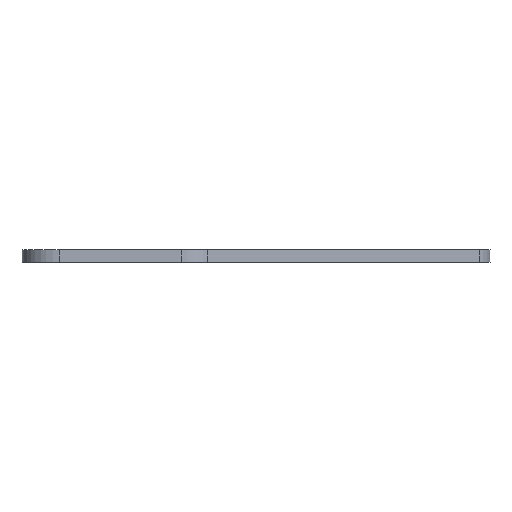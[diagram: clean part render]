
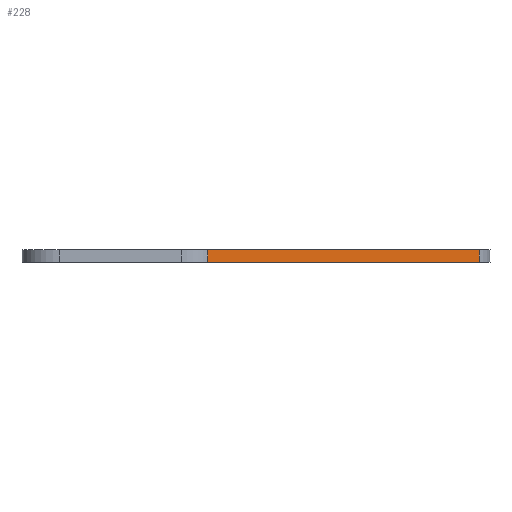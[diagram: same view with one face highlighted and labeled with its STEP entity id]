
A CAD part, front view. The second image highlights one B-rep face of the part: STEP entity #228.
In plain terms, the highlighted planar face has unit normal (0.707, -0.707, 0).
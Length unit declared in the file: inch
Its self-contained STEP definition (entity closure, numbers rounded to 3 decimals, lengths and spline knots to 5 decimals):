
#16 = LINE ( 'NONE', #638, #360 ) ;
#66 = VERTEX_POINT ( 'NONE', #811 ) ;
#137 = DIRECTION ( 'NONE',  ( -0.707, -0.707, 0. ) ) ;
#168 = ORIENTED_EDGE ( 'NONE', *, *, #813, .F. ) ;
#175 = CARTESIAN_POINT ( 'NONE',  ( 0.95083, 0.05583, 0.0625 ) ) ;
#179 = EDGE_CURVE ( 'NONE', #189, #226, #468, .T. ) ;
#189 = VERTEX_POINT ( 'NONE', #600 ) ;
#208 = DIRECTION ( 'NONE',  ( 0., 0., -1. ) ) ;
#220 = ORIENTED_EDGE ( 'NONE', *, *, #179, .T. ) ;
#226 = VERTEX_POINT ( 'NONE', #410 ) ;
#228 = ADVANCED_FACE ( 'NONE', ( #266 ), #886, .F. ) ;
#266 = FACE_OUTER_BOUND ( 'NONE', #431, .T. ) ;
#267 = DIRECTION ( 'NONE',  ( 0.707, 0.707, 0. ) ) ;
#302 = DIRECTION ( 'NONE',  ( 0.707, 0.707, 0. ) ) ;
#319 = CARTESIAN_POINT ( 'NONE',  ( 2.34236, 1.44736, 0.0625 ) ) ;
#336 = CARTESIAN_POINT ( 'NONE',  ( 0.95083, 0.05583, 0. ) ) ;
#360 = VECTOR ( 'NONE', #302, 39.37008 ) ;
#361 = EDGE_CURVE ( 'NONE', #66, #226, #475, .T. ) ;
#410 = CARTESIAN_POINT ( 'NONE',  ( 2.34236, 1.44736, 0. ) ) ;
#431 = EDGE_LOOP ( 'NONE', ( #816, #220, #528, #168 ) ) ;
#441 = CARTESIAN_POINT ( 'NONE',  ( 0.95083, 0.05583, 0.0625 ) ) ;
#450 = VECTOR ( 'NONE', #267, 39.37008 ) ;
#468 = LINE ( 'NONE', #336, #450 ) ;
#475 = LINE ( 'NONE', #319, #658 ) ;
#503 = AXIS2_PLACEMENT_3D ( 'NONE', #823, #539, #137 ) ;
#528 = ORIENTED_EDGE ( 'NONE', *, *, #361, .F. ) ;
#539 = DIRECTION ( 'NONE',  ( -0.707, 0.707, 0. ) ) ;
#600 = CARTESIAN_POINT ( 'NONE',  ( 0.95083, 0.05583, 0. ) ) ;
#630 = VECTOR ( 'NONE', #795, 39.37008 ) ;
#638 = CARTESIAN_POINT ( 'NONE',  ( 0.895, 0., 0.0625 ) ) ;
#658 = VECTOR ( 'NONE', #208, 39.37008 ) ;
#771 = VERTEX_POINT ( 'NONE', #441 ) ;
#795 = DIRECTION ( 'NONE',  ( 0., 0., 1. ) ) ;
#811 = CARTESIAN_POINT ( 'NONE',  ( 2.34236, 1.44736, 0.0625 ) ) ;
#813 = EDGE_CURVE ( 'NONE', #771, #66, #16, .T. ) ;
#816 = ORIENTED_EDGE ( 'NONE', *, *, #881, .F. ) ;
#823 = CARTESIAN_POINT ( 'NONE',  ( 0.895, 0., 0.0625 ) ) ;
#844 = LINE ( 'NONE', #175, #630 ) ;
#881 = EDGE_CURVE ( 'NONE', #189, #771, #844, .T. ) ;
#886 = PLANE ( 'NONE',  #503 ) ;
